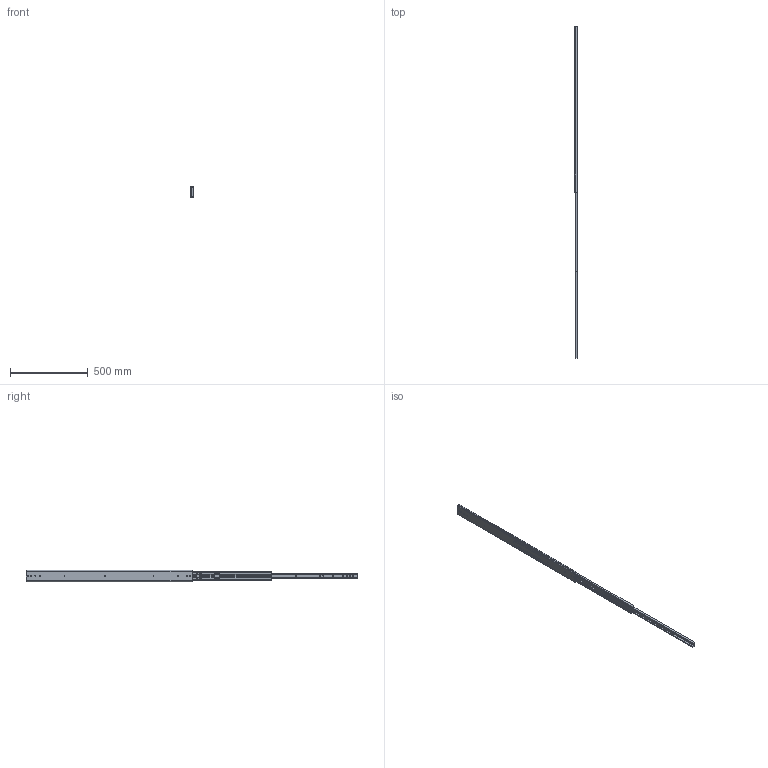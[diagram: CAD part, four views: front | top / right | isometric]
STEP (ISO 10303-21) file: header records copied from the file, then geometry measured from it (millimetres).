
FILE_DESCRIPTION(/* description */ ('Unknown'),/* implementation_level */ '2;1');
FILE_NAME(/* name */ '76J01-42 open',/* time_stamp */ '2024-07-26T16:26:10+08:00',/* author */ ('Unknown'),/* organization */ ('Unknown'),/* preprocessor_version */ 'ST-DEVELOPER v18.104',/* originating_system */ 'Solid Edge',/* authorisation */ 'Unknown');
FILE_SCHEMA (('AUTOMOTIVE_DESIGN {1 0 10303 214 3 1 1}'));
Length unit declared in the file: millimetre
Products named in the file (4): 76J01-42 open; 76J01 42 inch 內_0tional)_Taiwan.950; 76J01 42 吋; 76J01 42 吋中_2
Assembly tree (3 placements, depth 2):
  76J01-42 open
    76J01 42 inch 內_0tional)_Taiwan.950
    76J01 42 吋
    76J01 42 吋中_2
Bounding box: 19.3 x 2132.9 x 76.76 mm (x, y, z)
Volume: 840416.3 mm3; surface area: 522984.9 mm2
Topology: 3 solids, 3 shells, 194 faces, 599 edges, 405 vertices
Faces by surface type: plane 104, cylinder 90
Full cylindrical faces by diameter (mm): 5.2 x15, 7.1 x2
Entity records: 7096 total; most frequent: CARTESIAN_POINT 1154, DIRECTION 1141, ORIENTED_EDGE 1130, EDGE_CURVE 565, VERTEX_POINT 388, LINE 383, VECTOR 383, AXIS2_PLACEMENT_3D 379
